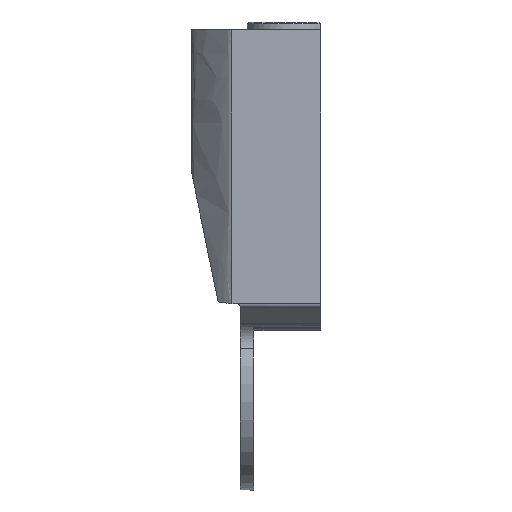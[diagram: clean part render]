
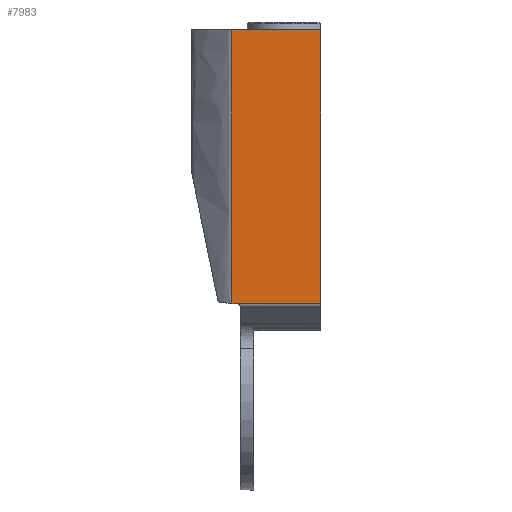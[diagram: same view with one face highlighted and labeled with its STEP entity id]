
A CAD part, front view. The second image highlights one B-rep face of the part: STEP entity #7983.
In plain terms, the highlighted planar face has unit normal (0, -1, 0).
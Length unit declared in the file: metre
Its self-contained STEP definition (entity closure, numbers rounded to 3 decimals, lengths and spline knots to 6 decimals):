
#206=PLANE('',#8852);
#378=LINE('',#13619,#873);
#538=LINE('',#15131,#1033);
#554=LINE('',#15302,#1049);
#559=LINE('',#15376,#1054);
#873=VECTOR('',#9773,1.);
#1033=VECTOR('',#10497,1.);
#1049=VECTOR('',#10573,1.);
#1054=VECTOR('',#10614,1.);
#1608=B_SPLINE_CURVE_WITH_KNOTS('',3,(#15395,#15396,#15397,#15398),
 .UNSPECIFIED.,.F.,.F.,(4,4),(0.,1.),.UNSPECIFIED.);
#2613=ORIENTED_EDGE('',*,*,#4716,.T.);
#2614=ORIENTED_EDGE('',*,*,#4786,.T.);
#2615=ORIENTED_EDGE('',*,*,#4757,.F.);
#2616=ORIENTED_EDGE('',*,*,#4780,.T.);
#2617=ORIENTED_EDGE('',*,*,#4298,.T.);
#4298=EDGE_CURVE('',#5429,#5428,#378,.T.);
#4716=EDGE_CURVE('',#5428,#5785,#538,.T.);
#4757=EDGE_CURVE('',#5818,#5819,#554,.T.);
#4780=EDGE_CURVE('',#5818,#5429,#559,.T.);
#4786=EDGE_CURVE('',#5785,#5819,#1608,.T.);
#5428=VERTEX_POINT('',#13618);
#5429=VERTEX_POINT('',#13620);
#5785=VERTEX_POINT('',#15130);
#5818=VERTEX_POINT('',#15301);
#5819=VERTEX_POINT('',#15303);
#6749=EDGE_LOOP('',(#2613,#2614,#2615,#2616,#2617));
#7375=FACE_BOUND('',#6749,.T.);
#7983=ADVANCED_FACE('',(#7375),#206,.F.);
#8852=AXIS2_PLACEMENT_3D('',#15394,#10624,#10625);
#9773=DIRECTION('',(0.,0.,1.));
#10497=DIRECTION('',(-1.,0.,0.));
#10573=DIRECTION('',(-1.,0.,0.));
#10614=DIRECTION('',(1.,0.,0.));
#10624=DIRECTION('',(0.,1.,0.));
#10625=DIRECTION('',(0.,0.,1.));
#13618=CARTESIAN_POINT('',(0.1455,-0.062,-0.2405));
#13619=CARTESIAN_POINT('',(0.1455,-0.062,-0.319738));
#13620=CARTESIAN_POINT('',(0.1455,-0.062,-0.399977));
#15130=CARTESIAN_POINT('',(0.0937,-0.062,-0.2405));
#15131=CARTESIAN_POINT('',(0.182002,-0.062,-0.2405));
#15301=CARTESIAN_POINT('',(0.0965,-0.062,-0.399977));
#15302=CARTESIAN_POINT('',(0.182002,-0.062,-0.399977));
#15303=CARTESIAN_POINT('',(0.0937,-0.062,-0.399977));
#15376=CARTESIAN_POINT('',(0.098498,-0.062,-0.399977));
#15394=CARTESIAN_POINT('',(0.182002,-0.062,-0.319738));
#15395=CARTESIAN_POINT('',(0.0937,-0.062,-0.2405));
#15396=CARTESIAN_POINT('',(0.0937,-0.062,-0.293659));
#15397=CARTESIAN_POINT('',(0.0937,-0.062,-0.346818));
#15398=CARTESIAN_POINT('',(0.0937,-0.062,-0.399977));
